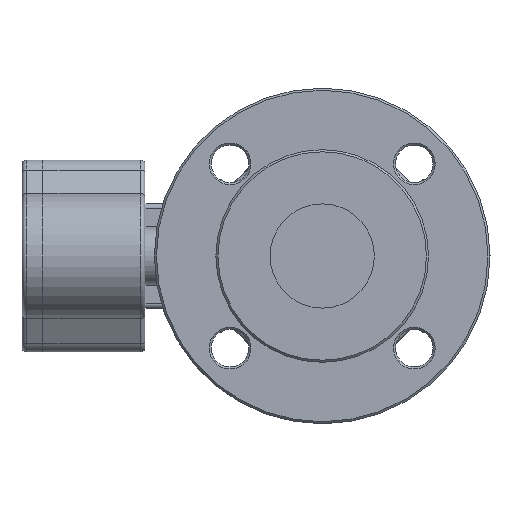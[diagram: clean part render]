
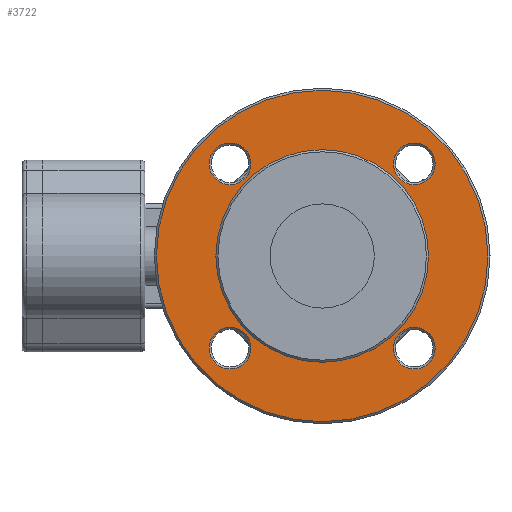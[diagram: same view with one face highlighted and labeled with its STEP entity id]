
A CAD part, left-side view. The second image highlights one B-rep face of the part: STEP entity #3722.
In plain terms, the highlighted planar face has unit normal (-1, 0, 0).
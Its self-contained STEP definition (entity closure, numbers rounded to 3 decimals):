
#3722=ADVANCED_FACE('',(#9075,#9077,#9079,#9081,#9083,#9085),#9087,.T.);
#9075=FACE_BOUND('',#9076,.T.);
#9076=EDGE_LOOP('',(#11817));
#9077=FACE_BOUND('',#9078,.T.);
#9078=EDGE_LOOP('',(#11818));
#9079=FACE_BOUND('',#9080,.T.);
#9080=EDGE_LOOP('',(#11819));
#9081=FACE_BOUND('',#9082,.T.);
#9082=EDGE_LOOP('',(#11820));
#9083=FACE_BOUND('',#9084,.T.);
#9084=EDGE_LOOP('',(#11821));
#9085=FACE_BOUND('',#9086,.T.);
#9086=EDGE_LOOP('',(#11822));
#9087=PLANE('',#9088);
#9088=AXIS2_PLACEMENT_3D('',#9089,#9090,#9091);
#9089=CARTESIAN_POINT('',(-97.,0.,0.));
#9090=DIRECTION('',(-1.,-0.,-0.));
#9091=DIRECTION('',(0.,1.,0.));
#11817=ORIENTED_EDGE('',*,*,#13165,.F.);
#11818=ORIENTED_EDGE('',*,*,#13166,.T.);
#11819=ORIENTED_EDGE('',*,*,#13167,.T.);
#11820=ORIENTED_EDGE('',*,*,#13111,.T.);
#11821=ORIENTED_EDGE('',*,*,#13168,.T.);
#11822=ORIENTED_EDGE('',*,*,#13169,.T.);
#13111=EDGE_CURVE('',#15033,#15033,#15034,.T.);
#13165=EDGE_CURVE('',#15125,#15125,#15126,.T.);
#13166=EDGE_CURVE('',#15127,#15127,#15128,.F.);
#13167=EDGE_CURVE('',#15129,#15129,#15130,.F.);
#13168=EDGE_CURVE('',#15131,#15131,#15132,.F.);
#13169=EDGE_CURVE('',#15133,#15133,#15134,.F.);
#15033=VERTEX_POINT('',#20306);
#15034=CIRCLE('',#20307,51.);
#15125=VERTEX_POINT('',#21328);
#15126=CIRCLE('',#21329,79.5);
#15127=VERTEX_POINT('',#21333);
#15128=CIRCLE('',#21334,10.);
#15129=VERTEX_POINT('',#21338);
#15130=CIRCLE('',#21339,10.);
#15131=VERTEX_POINT('',#21343);
#15132=CIRCLE('',#21344,10.);
#15133=VERTEX_POINT('',#21348);
#15134=CIRCLE('',#21349,10.);
#20306=CARTESIAN_POINT('',(-97.,51.,0.));
#20307=AXIS2_PLACEMENT_3D('',#20308,#20309,#20310);
#20308=CARTESIAN_POINT('',(-97.,0.,0.));
#20309=DIRECTION('',(1.,0.,0.));
#20310=DIRECTION('',(0.,1.,0.));
#21328=CARTESIAN_POINT('',(-97.,79.5,0.));
#21329=AXIS2_PLACEMENT_3D('',#21330,#21331,#21332);
#21330=CARTESIAN_POINT('',(-97.,0.,0.));
#21331=DIRECTION('',(1.,0.,0.));
#21332=DIRECTION('',(0.,1.,0.));
#21333=CARTESIAN_POINT('',(-97.,-44.194,-54.194));
#21334=AXIS2_PLACEMENT_3D('',#21335,#21336,#21337);
#21335=CARTESIAN_POINT('',(-97.,-44.194,-44.194));
#21336=DIRECTION('',(-1.,-0.,-0.));
#21337=DIRECTION('',(0.,0.,-1.));
#21338=CARTESIAN_POINT('',(-97.,44.194,34.194));
#21339=AXIS2_PLACEMENT_3D('',#21340,#21341,#21342);
#21340=CARTESIAN_POINT('',(-97.,44.194,44.194));
#21341=DIRECTION('',(-1.,-0.,-0.));
#21342=DIRECTION('',(0.,0.,-1.));
#21343=CARTESIAN_POINT('',(-97.,44.194,-54.194));
#21344=AXIS2_PLACEMENT_3D('',#21345,#21346,#21347);
#21345=CARTESIAN_POINT('',(-97.,44.194,-44.194));
#21346=DIRECTION('',(-1.,-0.,-0.));
#21347=DIRECTION('',(0.,0.,-1.));
#21348=CARTESIAN_POINT('',(-97.,-44.194,34.194));
#21349=AXIS2_PLACEMENT_3D('',#21350,#21351,#21352);
#21350=CARTESIAN_POINT('',(-97.,-44.194,44.194));
#21351=DIRECTION('',(-1.,-0.,-0.));
#21352=DIRECTION('',(0.,0.,-1.));
